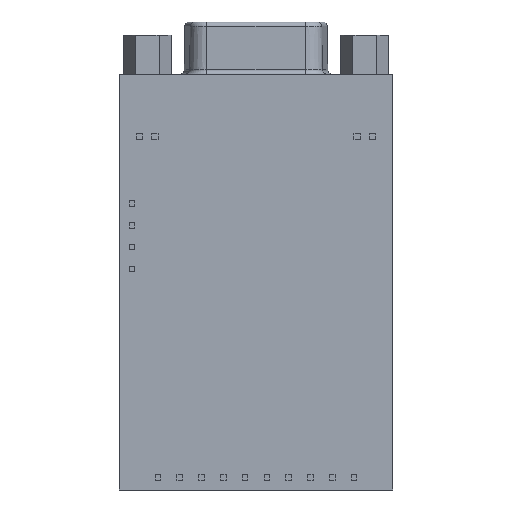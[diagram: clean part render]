
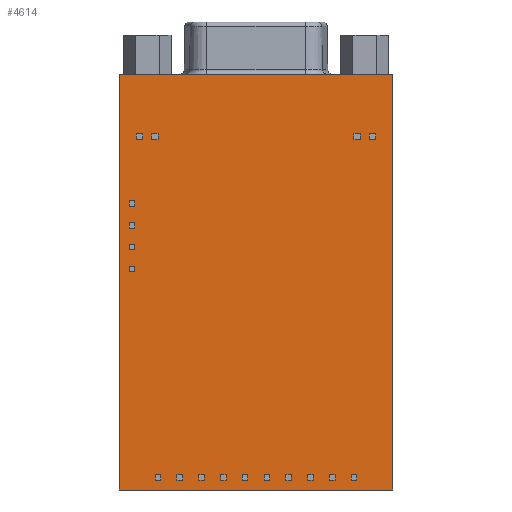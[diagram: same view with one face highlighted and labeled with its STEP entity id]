
A CAD part, front view. The second image highlights one B-rep face of the part: STEP entity #4614.
In plain terms, the highlighted planar face has unit normal (0, -1, 0).
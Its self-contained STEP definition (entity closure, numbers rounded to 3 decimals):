
#4478=CARTESIAN_POINT('Vertex',(15.7,-7.9,0.)) ;
#4492=CARTESIAN_POINT('Vertex',(-15.7,-7.9,0.)) ;
#4495=CARTESIAN_POINT('Line Origine',(0.,-7.9,0.)) ;
#4523=CARTESIAN_POINT('Vertex',(-15.7,-7.9,-47.75)) ;
#4526=CARTESIAN_POINT('Line Origine',(-15.7,-7.9,-23.875)) ;
#4554=CARTESIAN_POINT('Vertex',(15.7,-7.9,-47.75)) ;
#4557=CARTESIAN_POINT('Line Origine',(0.,-7.9,-47.75)) ;
#4579=CARTESIAN_POINT('Line Origine',(15.7,-7.9,-23.875)) ;
#4603=CARTESIAN_POINT('Axis2P3D Location',(0.,-7.9,0.)) ;
#4496=DIRECTION('Vector Direction',(1.,0.,0.)) ;
#4527=DIRECTION('Vector Direction',(0.,0.,1.)) ;
#4558=DIRECTION('Vector Direction',(-1.,0.,0.)) ;
#4580=DIRECTION('Vector Direction',(0.,0.,-1.)) ;
#4604=DIRECTION('Axis2P3D Direction',(0.,-1.,0.)) ;
#4605=DIRECTION('Axis2P3D XDirection',(1.,0.,0.)) ;
#4606=AXIS2_PLACEMENT_3D('Plane Axis2P3D',#4603,#4604,#4605) ;
#4609=ORIENTED_EDGE('',*,*,#4499,.T.) ;
#4610=ORIENTED_EDGE('',*,*,#4530,.T.) ;
#4611=ORIENTED_EDGE('',*,*,#4561,.T.) ;
#4612=ORIENTED_EDGE('',*,*,#4583,.T.) ;
#4497=VECTOR('Line Direction',#4496,1.) ;
#4528=VECTOR('Line Direction',#4527,1.) ;
#4559=VECTOR('Line Direction',#4558,1.) ;
#4581=VECTOR('Line Direction',#4580,1.) ;
#4614=ADVANCED_FACE('Body.12',(#4613),#4607,.T.) ;
#4499=EDGE_CURVE('',#4479,#4493,#4498,.F.) ;
#4530=EDGE_CURVE('',#4493,#4524,#4529,.F.) ;
#4561=EDGE_CURVE('',#4524,#4555,#4560,.F.) ;
#4583=EDGE_CURVE('',#4555,#4479,#4582,.F.) ;
#4608=EDGE_LOOP('',(#4609,#4610,#4611,#4612)) ;
#4613=FACE_OUTER_BOUND('',#4608,.T.) ;
#4498=LINE('Line',#4495,#4497) ;
#4529=LINE('Line',#4526,#4528) ;
#4560=LINE('Line',#4557,#4559) ;
#4582=LINE('Line',#4579,#4581) ;
#4607=PLANE('Plane',#4606) ;
#4479=VERTEX_POINT('',#4478) ;
#4493=VERTEX_POINT('',#4492) ;
#4524=VERTEX_POINT('',#4523) ;
#4555=VERTEX_POINT('',#4554) ;
